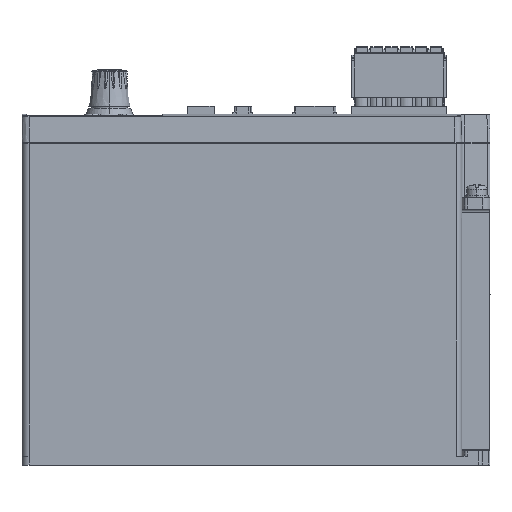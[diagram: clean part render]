
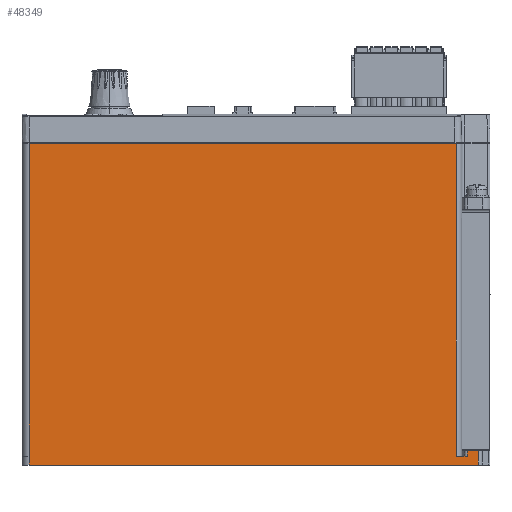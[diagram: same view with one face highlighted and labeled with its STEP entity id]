
A CAD part, left-side view. The second image highlights one B-rep face of the part: STEP entity #48349.
In plain terms, the highlighted planar face has unit normal (-1, 0, 0).
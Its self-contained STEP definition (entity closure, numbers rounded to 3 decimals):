
#2977 = DIRECTION ( 'NONE',  ( 0., 0., 1. ) ) ;
#3109 = LINE ( 'NONE', #26767, #70812 ) ;
#4607 = CARTESIAN_POINT ( 'NONE',  ( -20., -76., 0. ) ) ;
#9444 = DIRECTION ( 'NONE',  ( 0., 1., 0. ) ) ;
#9720 = VECTOR ( 'NONE', #36049, 1000. ) ;
#11327 = DIRECTION ( 'NONE',  ( 0., 0., -1. ) ) ;
#13338 = DIRECTION ( 'NONE',  ( 0., -1., 0. ) ) ;
#13853 = ORIENTED_EDGE ( 'NONE', *, *, #97139, .F. ) ;
#14335 = EDGE_CURVE ( 'NONE', #60788, #37678, #35453, .T. ) ;
#15889 = DIRECTION ( 'NONE',  ( 1., 0., 0. ) ) ;
#16124 = CARTESIAN_POINT ( 'NONE',  ( -20., 77.6, 0. ) ) ;
#17234 = PLANE ( 'NONE',  #29264 ) ;
#17378 = ORIENTED_EDGE ( 'NONE', *, *, #62357, .F. ) ;
#17777 = VERTEX_POINT ( 'NONE', #16124 ) ;
#18400 = CARTESIAN_POINT ( 'NONE',  ( -20., -68.487, 3. ) ) ;
#19674 = LINE ( 'NONE', #109714, #93738 ) ;
#21715 = CARTESIAN_POINT ( 'NONE',  ( -20., -76., 5. ) ) ;
#26733 = DIRECTION ( 'NONE',  ( 0., 0., -1. ) ) ;
#26736 = DIRECTION ( 'NONE',  ( 0., 0., -1. ) ) ;
#26767 = CARTESIAN_POINT ( 'NONE',  ( -20., 77.6, -0.3 ) ) ;
#28577 = VERTEX_POINT ( 'NONE', #4607 ) ;
#29264 = AXIS2_PLACEMENT_3D ( 'NONE', #56838, #15889, #26736 ) ;
#29796 = LINE ( 'NONE', #65576, #44234 ) ;
#30599 = VECTOR ( 'NONE', #31634, 1000. ) ;
#31634 = DIRECTION ( 'NONE',  ( 0., -1., 0. ) ) ;
#32991 = VECTOR ( 'NONE', #11327, 1000. ) ;
#35453 = LINE ( 'NONE', #65803, #9720 ) ;
#36049 = DIRECTION ( 'NONE',  ( 0., -1., 0. ) ) ;
#36948 = VECTOR ( 'NONE', #9444, 1000. ) ;
#37260 = CARTESIAN_POINT ( 'NONE',  ( -20., 77.6, -0.3 ) ) ;
#37475 = VERTEX_POINT ( 'NONE', #82493 ) ;
#37678 = VERTEX_POINT ( 'NONE', #56676 ) ;
#39443 = VERTEX_POINT ( 'NONE', #100052 ) ;
#39741 = LINE ( 'NONE', #37260, #44647 ) ;
#40387 = ORIENTED_EDGE ( 'NONE', *, *, #133352, .F. ) ;
#41193 = EDGE_CURVE ( 'NONE', #17777, #109306, #39741, .T. ) ;
#44234 = VECTOR ( 'NONE', #13338, 1000. ) ;
#44304 = ORIENTED_EDGE ( 'NONE', *, *, #70650, .F. ) ;
#44647 = VECTOR ( 'NONE', #47595, 1000. ) ;
#47595 = DIRECTION ( 'NONE',  ( 0., 0., 1. ) ) ;
#48349 = ADVANCED_FACE ( 'NONE', ( #78494 ), #17234, .F. ) ;
#56676 = CARTESIAN_POINT ( 'NONE',  ( -20., -68.487, 110. ) ) ;
#56838 = CARTESIAN_POINT ( 'NONE',  ( -20., -76., -0.3 ) ) ;
#60788 = VERTEX_POINT ( 'NONE', #129137 ) ;
#60815 = EDGE_CURVE ( 'NONE', #66125, #39443, #19674, .T. ) ;
#62357 = EDGE_CURVE ( 'NONE', #109306, #37475, #112863, .T. ) ;
#63121 = CARTESIAN_POINT ( 'NONE',  ( -20., -68.487, -0.3 ) ) ;
#63352 = ORIENTED_EDGE ( 'NONE', *, *, #41193, .F. ) ;
#63719 = ORIENTED_EDGE ( 'NONE', *, *, #87249, .F. ) ;
#65576 = CARTESIAN_POINT ( 'NONE',  ( -20., -76., 3. ) ) ;
#65803 = CARTESIAN_POINT ( 'NONE',  ( -20., -76., 110. ) ) ;
#66125 = VERTEX_POINT ( 'NONE', #113792 ) ;
#69018 = DIRECTION ( 'NONE',  ( 0., 0., 1. ) ) ;
#69052 = ORIENTED_EDGE ( 'NONE', *, *, #60815, .F. ) ;
#70650 = EDGE_CURVE ( 'NONE', #91503, #28577, #120541, .T. ) ;
#70812 = VECTOR ( 'NONE', #69018, 1000. ) ;
#78494 = FACE_OUTER_BOUND ( 'NONE', #106312, .T. ) ;
#79552 = CARTESIAN_POINT ( 'NONE',  ( -20., -76., 5. ) ) ;
#82493 = CARTESIAN_POINT ( 'NONE',  ( -20., 77.6, 3.1 ) ) ;
#85522 = VECTOR ( 'NONE', #2977, 1000. ) ;
#86112 = LINE ( 'NONE', #63121, #32991 ) ;
#87249 = EDGE_CURVE ( 'NONE', #37678, #114114, #86112, .T. ) ;
#88876 = CARTESIAN_POINT ( 'NONE',  ( -20., -76., -0.3 ) ) ;
#90563 = CARTESIAN_POINT ( 'NONE',  ( -20., -76., 0. ) ) ;
#91503 = VERTEX_POINT ( 'NONE', #79552 ) ;
#91754 = LINE ( 'NONE', #90563, #36948 ) ;
#93738 = VECTOR ( 'NONE', #130449, 1000. ) ;
#95119 = LINE ( 'NONE', #21715, #30599 ) ;
#97139 = EDGE_CURVE ( 'NONE', #39443, #91503, #95119, .T. ) ;
#98962 = EDGE_CURVE ( 'NONE', #28577, #17777, #91754, .T. ) ;
#100052 = CARTESIAN_POINT ( 'NONE',  ( -20., -72.2, 5. ) ) ;
#102327 = EDGE_CURVE ( 'NONE', #114114, #66125, #29796, .T. ) ;
#104842 = ORIENTED_EDGE ( 'NONE', *, *, #98962, .F. ) ;
#106312 = EDGE_LOOP ( 'NONE', ( #63352, #104842, #44304, #13853, #69052, #122509, #63719, #128488, #40387, #17378 ) ) ;
#109306 = VERTEX_POINT ( 'NONE', #126353 ) ;
#109714 = CARTESIAN_POINT ( 'NONE',  ( -20., -72.2, -0.3 ) ) ;
#112863 = LINE ( 'NONE', #115565, #85522 ) ;
#113792 = CARTESIAN_POINT ( 'NONE',  ( -20., -72.2, 3. ) ) ;
#114114 = VERTEX_POINT ( 'NONE', #18400 ) ;
#115565 = CARTESIAN_POINT ( 'NONE',  ( -20., 77.6, 4.5 ) ) ;
#118861 = VECTOR ( 'NONE', #26733, 1000. ) ;
#120541 = LINE ( 'NONE', #88876, #118861 ) ;
#122509 = ORIENTED_EDGE ( 'NONE', *, *, #102327, .F. ) ;
#126353 = CARTESIAN_POINT ( 'NONE',  ( -20., 77.6, 3. ) ) ;
#128488 = ORIENTED_EDGE ( 'NONE', *, *, #14335, .F. ) ;
#129137 = CARTESIAN_POINT ( 'NONE',  ( -20., 77.6, 110. ) ) ;
#130449 = DIRECTION ( 'NONE',  ( 0., 0., 1. ) ) ;
#133352 = EDGE_CURVE ( 'NONE', #37475, #60788, #3109, .T. ) ;
